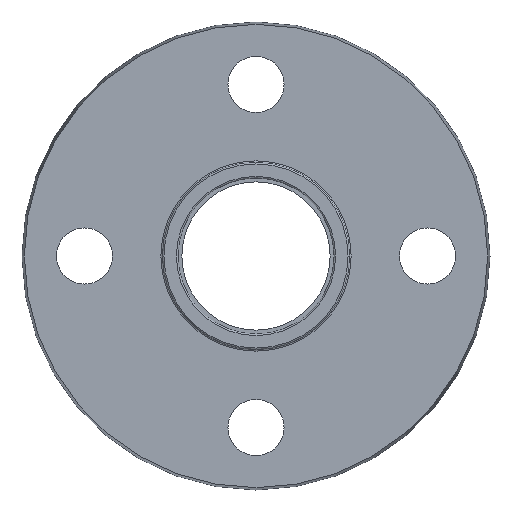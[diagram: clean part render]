
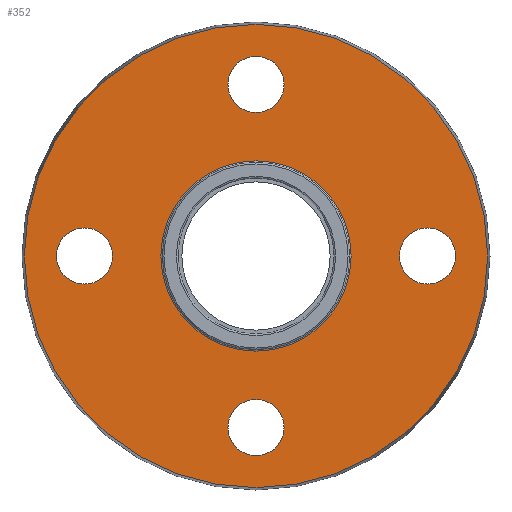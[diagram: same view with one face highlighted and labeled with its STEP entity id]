
A CAD part, left-side view. The second image highlights one B-rep face of the part: STEP entity #352.
In plain terms, the highlighted planar face has unit normal (-1, 0, 0).
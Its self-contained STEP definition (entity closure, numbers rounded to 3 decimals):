
#28=PLANE('',#409);
#55=FACE_BOUND('',#141,.T.);
#56=FACE_BOUND('',#142,.T.);
#57=FACE_BOUND('',#143,.T.);
#58=FACE_BOUND('',#144,.T.);
#59=FACE_BOUND('',#145,.T.);
#87=FACE_OUTER_BOUND('',#140,.T.);
#140=EDGE_LOOP('',(#300));
#141=EDGE_LOOP('',(#301));
#142=EDGE_LOOP('',(#302));
#143=EDGE_LOOP('',(#303));
#144=EDGE_LOOP('',(#304));
#145=EDGE_LOOP('',(#305));
#184=CIRCLE('',#408,30.5);
#185=CIRCLE('',#410,74.25);
#186=CIRCLE('',#411,9.);
#187=CIRCLE('',#412,9.);
#188=CIRCLE('',#413,9.);
#189=CIRCLE('',#414,9.);
#216=VERTEX_POINT('',#617);
#217=VERTEX_POINT('',#620);
#218=VERTEX_POINT('',#622);
#219=VERTEX_POINT('',#624);
#220=VERTEX_POINT('',#626);
#221=VERTEX_POINT('',#628);
#248=EDGE_CURVE('',#216,#216,#184,.T.);
#249=EDGE_CURVE('',#217,#217,#185,.T.);
#250=EDGE_CURVE('',#218,#218,#186,.T.);
#251=EDGE_CURVE('',#219,#219,#187,.T.);
#252=EDGE_CURVE('',#220,#220,#188,.T.);
#253=EDGE_CURVE('',#221,#221,#189,.T.);
#300=ORIENTED_EDGE('',*,*,#249,.T.);
#301=ORIENTED_EDGE('',*,*,#250,.T.);
#302=ORIENTED_EDGE('',*,*,#251,.T.);
#303=ORIENTED_EDGE('',*,*,#252,.T.);
#304=ORIENTED_EDGE('',*,*,#253,.T.);
#305=ORIENTED_EDGE('',*,*,#248,.F.);
#352=ADVANCED_FACE('',(#87,#55,#56,#57,#58,#59),#28,.T.);
#408=AXIS2_PLACEMENT_3D('',#618,#517,#518);
#409=AXIS2_PLACEMENT_3D('',#619,#519,#520);
#410=AXIS2_PLACEMENT_3D('',#621,#521,#522);
#411=AXIS2_PLACEMENT_3D('',#623,#523,#524);
#412=AXIS2_PLACEMENT_3D('',#625,#525,#526);
#413=AXIS2_PLACEMENT_3D('',#627,#527,#528);
#414=AXIS2_PLACEMENT_3D('',#629,#529,#530);
#517=DIRECTION('center_axis',(-1.,0.,0.));
#518=DIRECTION('ref_axis',(0.,1.,0.));
#519=DIRECTION('center_axis',(-1.,0.,0.));
#520=DIRECTION('ref_axis',(0.,0.,1.));
#521=DIRECTION('center_axis',(-1.,0.,0.));
#522=DIRECTION('ref_axis',(0.,0.,1.));
#523=DIRECTION('center_axis',(1.,0.,0.));
#524=DIRECTION('ref_axis',(0.,0.,1.));
#525=DIRECTION('center_axis',(1.,0.,0.));
#526=DIRECTION('ref_axis',(0.,1.,0.));
#527=DIRECTION('center_axis',(1.,0.,0.));
#528=DIRECTION('ref_axis',(0.,0.,-1.));
#529=DIRECTION('center_axis',(1.,0.,0.));
#530=DIRECTION('ref_axis',(0.,-1.,0.));
#617=CARTESIAN_POINT('',(0.,-30.5,0.));
#618=CARTESIAN_POINT('Origin',(0.,0.,0.));
#619=CARTESIAN_POINT('Origin',(0.,-30.,0.));
#620=CARTESIAN_POINT('',(0.,-74.25,0.));
#621=CARTESIAN_POINT('Origin',(0.,0.,0.));
#622=CARTESIAN_POINT('',(0.,55.,-9.));
#623=CARTESIAN_POINT('Origin',(0.,55.,0.));
#624=CARTESIAN_POINT('',(0.,-9.,-55.));
#625=CARTESIAN_POINT('Origin',(0.,0.,-55.));
#626=CARTESIAN_POINT('',(0.,-55.,9.));
#627=CARTESIAN_POINT('Origin',(0.,-55.,0.));
#628=CARTESIAN_POINT('',(0.,9.,55.));
#629=CARTESIAN_POINT('Origin',(0.,0.,55.));
